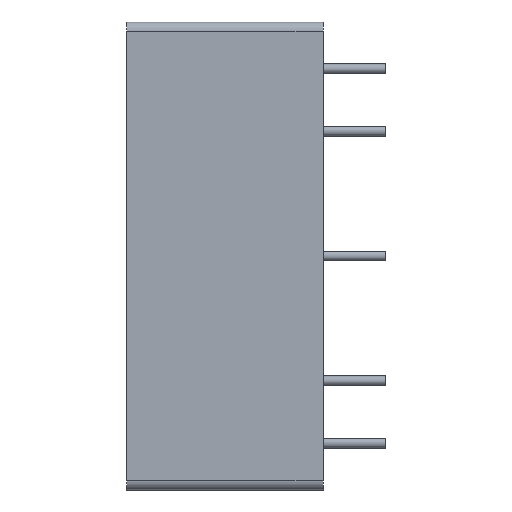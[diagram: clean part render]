
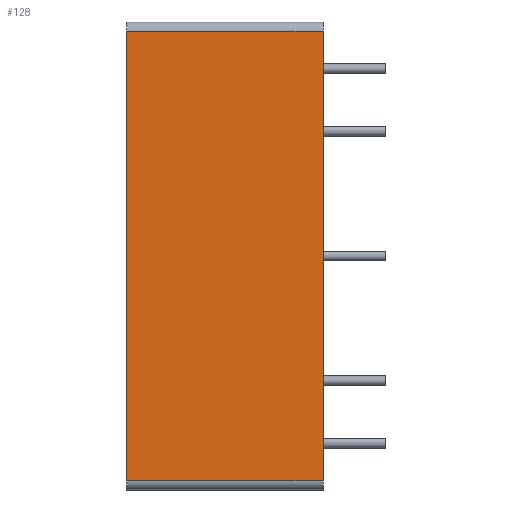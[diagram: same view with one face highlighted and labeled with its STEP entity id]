
A CAD part, left-side view. The second image highlights one B-rep face of the part: STEP entity #128.
In plain terms, the highlighted planar face has unit normal (-1, 0, 0).
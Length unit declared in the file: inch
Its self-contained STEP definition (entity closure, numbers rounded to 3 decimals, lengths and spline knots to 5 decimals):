
#21 = ORIENTED_EDGE ( 'NONE', *, *, #801, .F. ) ;
#37 = VECTOR ( 'NONE', #573, 39.37008 ) ;
#60 = VECTOR ( 'NONE', #600, 39.37008 ) ;
#65 = CARTESIAN_POINT ( 'NONE',  ( -0.75, 0.63, 0.75 ) ) ;
#69 = ORIENTED_EDGE ( 'NONE', *, *, #333, .T. ) ;
#86 = EDGE_CURVE ( 'NONE', #301, #736, #856, .T. ) ;
#87 = ORIENTED_EDGE ( 'NONE', *, *, #448, .T. ) ;
#93 = AXIS2_PLACEMENT_3D ( 'NONE', #763, #281, #279 ) ;
#97 = CARTESIAN_POINT ( 'NONE',  ( -0.75, 0.63, -0.72 ) ) ;
#128 = ADVANCED_FACE ( 'NONE', ( #409 ), #129, .F. ) ;
#129 = PLANE ( 'NONE',  #93 ) ;
#146 = DIRECTION ( 'NONE',  ( 0., 0., 1. ) ) ;
#148 = EDGE_LOOP ( 'NONE', ( #21, #69, #87, #393 ) ) ;
#223 = CARTESIAN_POINT ( 'NONE',  ( -0.75, 0., 0.75 ) ) ;
#279 = DIRECTION ( 'NONE',  ( 0., 0., -1. ) ) ;
#281 = DIRECTION ( 'NONE',  ( 1., 0., 0. ) ) ;
#301 = VERTEX_POINT ( 'NONE', #430 ) ;
#320 = LINE ( 'NONE', #436, #37 ) ;
#333 = EDGE_CURVE ( 'NONE', #603, #909, #320, .T. ) ;
#351 = CARTESIAN_POINT ( 'NONE',  ( -0.75, 0.63, 0.72 ) ) ;
#393 = ORIENTED_EDGE ( 'NONE', *, *, #86, .T. ) ;
#409 = FACE_OUTER_BOUND ( 'NONE', #148, .T. ) ;
#430 = CARTESIAN_POINT ( 'NONE',  ( -0.75, 0., 0.72 ) ) ;
#436 = CARTESIAN_POINT ( 'NONE',  ( -0.75, 0.63, -0.72 ) ) ;
#448 = EDGE_CURVE ( 'NONE', #909, #301, #687, .T. ) ;
#550 = DIRECTION ( 'NONE',  ( 0., 0., 1. ) ) ;
#573 = DIRECTION ( 'NONE',  ( 0., -1., 0. ) ) ;
#600 = DIRECTION ( 'NONE',  ( 0., 1., 0. ) ) ;
#603 = VERTEX_POINT ( 'NONE', #97 ) ;
#635 = CARTESIAN_POINT ( 'NONE',  ( -0.75, 0., -0.72 ) ) ;
#657 = VECTOR ( 'NONE', #550, 39.37008 ) ;
#687 = LINE ( 'NONE', #223, #715 ) ;
#715 = VECTOR ( 'NONE', #146, 39.37008 ) ;
#736 = VERTEX_POINT ( 'NONE', #351 ) ;
#763 = CARTESIAN_POINT ( 'NONE',  ( -0.75, 0.63, 0.75 ) ) ;
#801 = EDGE_CURVE ( 'NONE', #603, #736, #921, .T. ) ;
#836 = CARTESIAN_POINT ( 'NONE',  ( -0.75, 0.63, 0.72 ) ) ;
#856 = LINE ( 'NONE', #836, #60 ) ;
#909 = VERTEX_POINT ( 'NONE', #635 ) ;
#921 = LINE ( 'NONE', #65, #657 ) ;
